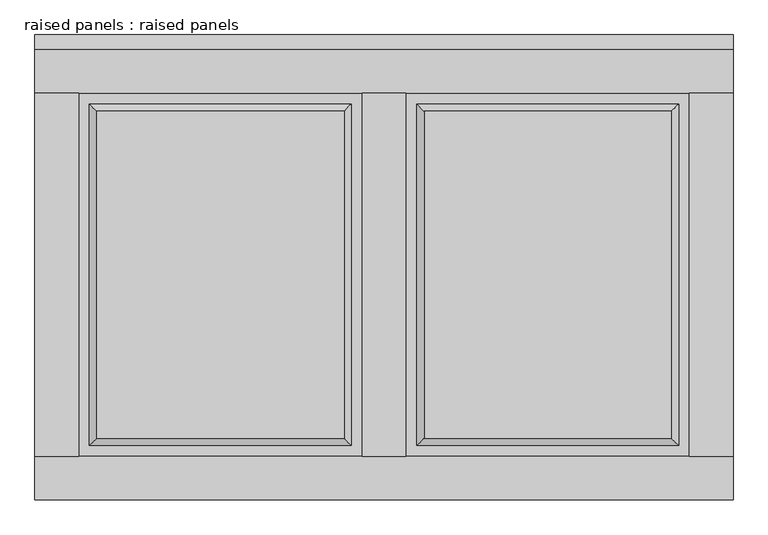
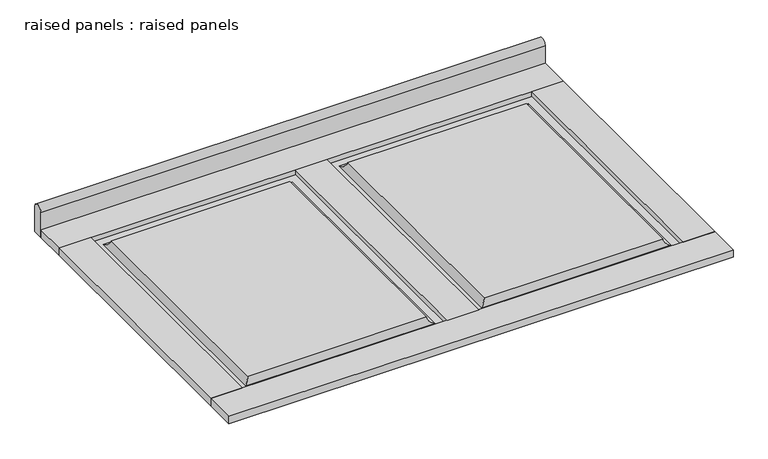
"""IFC4 building model written with IfcOpenShell, lengths in millimetres: furniture geometry, raised panels : raised panels."""

from ifc_helpers import new_model, si_unit, point, frame, frame_2d, origin, origin_with_axes, place, context, project, spatial, polyline, circle_curve, ellipse_curve, trimmed, segment, composite_curve, outline, extrude, source, transform, mapped, element, save
from ifc_brep_helpers import plane_surface, revolved_surface, advanced_brep


def raised_panels_raised_panels_ac667cab(model_context):
    return source(origin(), model_context, "Body", "SolidModel", [
        advanced_brep(
        [(1111.25, 209.55, 19.05), (1111.25, 781.05, 19.05), (679.45, 781.05, 19.05), (679.45, 209.55, 19.05), (1143.0, 812.8, 0.0), (1143.0, 177.8, 0.0), (647.7, 177.8, 0.0), (647.7, 812.8, 0.0), (647.7, 812.8, 6.35), (1143.0, 812.8, 6.35), (647.7, 177.8, 6.35), (1143.0, 177.8, 6.35), (1123.95, 196.85, 6.35), (1123.95, 793.75, 6.35), (666.75, 793.75, 6.35), (666.75, 196.85, 6.35)],
        [
            (0, 1),
            (1, 2),
            (2, 3),
            (3, 0),
            (4, 5),
            (5, 6),
            (6, 7),
            (7, 4),
            (7, 8),
            (8, 9),
            (9, 4),
            (6, 10),
            (10, 8),
            (5, 11),
            (11, 10),
            (9, 11),
            (12, 13),
            (13, 1, ellipse_curve(frame((1123.95, 793.75, 19.05), z_axis=(-0.7071067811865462, 0.7071067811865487, 0.0), x_axis=(-0.7071067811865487, -0.7071067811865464, 0.0)), 17.9605122, 12.7)),
            (0, 12, ellipse_curve(frame((1123.95, 196.85, 19.05), z_axis=(-0.7071067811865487, -0.7071067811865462, 0.0), x_axis=(0.7071067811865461, -0.7071067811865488, 0.0)), 17.9605122, 12.7)),
            (13, 14),
            (14, 2, ellipse_curve(frame((666.75, 793.75, 19.05), z_axis=(-0.7071067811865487, -0.7071067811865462, 0.0), x_axis=(0.7071067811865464, -0.7071067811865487, 0.0)), 17.9605122, 12.7)),
            (14, 15),
            (15, 3, ellipse_curve(frame((666.75, 196.85, 19.05), z_axis=(0.7071067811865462, -0.7071067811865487, 0.0), x_axis=(0.7071067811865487, 0.7071067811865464, 0.0)), 17.9605122, 12.7)),
            (15, 12),
        ],
        [
            plane_surface(frame((1143.0, 812.8, 19.05), z_axis=(0.0, 0.0, 1.0), x_axis=(-1.0, 0.0, 0.0))),
            plane_surface(frame((1143.0, 812.8, 0.0), z_axis=(0.0, 0.0, -1.0), x_axis=(1.0, 0.0, 0.0))),
            plane_surface(frame((1143.0, 812.8, 19.05), z_axis=(0.0, 1.0, 0.0), x_axis=(0.0, 0.0, -1.0))),
            plane_surface(frame((647.7, 812.8, 19.05), z_axis=(-1.0, 0.0, 0.0), x_axis=(0.0, 0.0, -1.0))),
            plane_surface(frame((647.7, 177.8, 19.05), z_axis=(0.0, -1.0, 0.0), x_axis=(0.0, 0.0, -1.0))),
            plane_surface(frame((1143.0, 177.8, 19.05), z_axis=(1.0, 0.0, 0.0), x_axis=(0.0, 0.0, -1.0))),
            revolved_surface(polyline([(1111.25, 184.15000002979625, 19.05), (1111.25, 806.4499999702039, 19.05)]), (1123.95, 177.8, 19.05), (0.0, -1.0, 0.0)),
            revolved_surface(polyline([(1136.6499999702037, 781.05, 19.05), (654.0500000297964, 781.05, 19.05)]), (1143.0, 793.75, 19.05), (1.0, 0.0, 0.0)),
            revolved_surface(polyline([(679.45, 806.4499999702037, 19.05), (679.45, 184.15000002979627, 19.05)]), (666.75, 812.8, 19.05), (0.0, 1.0, 0.0)),
            revolved_surface(polyline([(654.0500000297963, 209.54999999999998, 19.05), (1136.6499999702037, 209.54999999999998, 19.05)]), (647.7, 196.85, 19.05), (-1.0, 0.0, 0.0)),
            plane_surface(frame((666.75, 196.85, 6.35), z_axis=(0.0, 0.0, 1.0), x_axis=(1.0, 0.0, 0.0))),
        ],
        [
            (0, [[1, 2, 3, 4]]),
            (1, [[5, 6, 7, 8]]),
            (2, [[-8, 9, 10, 11]]),
            (3, [[-7, 12, 13, -9]]),
            (4, [[-6, 14, 15, -12]]),
            (5, [[-5, -11, 16, -14]]),
            (6, [[17, 18, -1, 19]]),
            (7, [[-18, 20, 21, -2]]),
            (8, [[-21, 22, 23, -3]]),
            (9, [[-19, -4, -23, 24]]),
            (10, [[-10, -13, -15, -16], [-17, -24, -22, -20]]),
        ],
    ),
        advanced_brep(
        [(539.75, 209.55, 19.05), (539.75, 781.05, 19.05), (107.95, 781.05, 19.05), (107.95, 209.55, 19.05), (571.5, 812.8, 0.0), (571.5, 177.8, 0.0), (76.2, 177.8, 0.0), (76.2, 812.8, 0.0), (76.2, 812.8, 6.35), (571.5, 812.8, 6.35), (76.2, 177.8, 6.35), (571.5, 177.8, 6.35), (552.45, 196.85, 6.35), (552.45, 793.75, 6.35), (95.25, 793.75, 6.35), (95.25, 196.85, 6.35)],
        [
            (0, 1),
            (1, 2),
            (2, 3),
            (3, 0),
            (4, 5),
            (5, 6),
            (6, 7),
            (7, 4),
            (7, 8),
            (8, 9),
            (9, 4),
            (6, 10),
            (10, 8),
            (5, 11),
            (11, 10),
            (9, 11),
            (12, 13),
            (13, 1, ellipse_curve(frame((552.45, 793.75, 19.05), z_axis=(-0.7071067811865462, 0.7071067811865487, 0.0), x_axis=(-0.7071067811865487, -0.7071067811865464, 0.0)), 17.9605122, 12.7)),
            (0, 12, ellipse_curve(frame((552.45, 196.85, 19.05), z_axis=(-0.7071067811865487, -0.7071067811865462, 0.0), x_axis=(0.7071067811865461, -0.7071067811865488, 0.0)), 17.9605122, 12.7)),
            (13, 14),
            (14, 2, ellipse_curve(frame((95.25, 793.75, 19.05), z_axis=(-0.7071067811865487, -0.7071067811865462, 0.0), x_axis=(0.7071067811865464, -0.7071067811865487, 0.0)), 17.9605122, 12.7)),
            (14, 15),
            (15, 3, ellipse_curve(frame((95.25, 196.85, 19.05), z_axis=(0.7071067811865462, -0.7071067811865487, 0.0), x_axis=(0.7071067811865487, 0.7071067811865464, 0.0)), 17.9605122, 12.7)),
            (15, 12),
        ],
        [
            plane_surface(frame((571.5, 812.8, 19.05), z_axis=(0.0, 0.0, 1.0), x_axis=(-1.0, 0.0, 0.0))),
            plane_surface(frame((571.5, 812.8, 0.0), z_axis=(0.0, 0.0, -1.0), x_axis=(1.0, 0.0, 0.0))),
            plane_surface(frame((571.5, 812.8, 19.05), z_axis=(0.0, 1.0, 0.0), x_axis=(0.0, 0.0, -1.0))),
            plane_surface(frame((76.2, 812.8, 19.05), z_axis=(-1.0, 0.0, 0.0), x_axis=(0.0, 0.0, -1.0))),
            plane_surface(frame((76.2, 177.8, 19.05), z_axis=(0.0, -1.0, 0.0), x_axis=(0.0, 0.0, -1.0))),
            plane_surface(frame((571.5, 177.8, 19.05), z_axis=(1.0, 0.0, 0.0), x_axis=(0.0, 0.0, -1.0))),
            revolved_surface(polyline([(539.75, 184.15000002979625, 19.05), (539.75, 806.4499999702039, 19.05)]), (552.45, 177.8, 19.05), (0.0, -1.0, 0.0)),
            revolved_surface(polyline([(565.1499999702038, 781.05, 19.05), (82.55000002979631, 781.05, 19.05)]), (571.5, 793.75, 19.05), (1.0, 0.0, 0.0)),
            revolved_surface(polyline([(107.95, 806.4499999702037, 19.05), (107.95, 184.15000002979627, 19.05)]), (95.25, 812.8, 19.05), (0.0, 1.0, 0.0)),
            revolved_surface(polyline([(82.55000002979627, 209.54999999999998, 19.05), (565.1499999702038, 209.54999999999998, 19.05)]), (76.2, 196.85, 19.05), (-1.0, 0.0, 0.0)),
            plane_surface(frame((95.25, 196.85, 6.35), z_axis=(0.0, 0.0, 1.0), x_axis=(1.0, 0.0, 0.0))),
        ],
        [
            (0, [[1, 2, 3, 4]]),
            (1, [[5, 6, 7, 8]]),
            (2, [[-8, 9, 10, 11]]),
            (3, [[-7, 12, 13, -9]]),
            (4, [[-6, 14, 15, -12]]),
            (5, [[-5, -11, 16, -14]]),
            (6, [[17, 18, -1, 19]]),
            (7, [[-18, 20, 21, -2]]),
            (8, [[-21, 22, 23, -3]]),
            (9, [[-19, -4, -23, 24]]),
            (10, [[-10, -13, -15, -16], [-17, -24, -22, -20]]),
        ],
    ),
        extrude(outline(polyline([(647.7, 177.8), (571.5, 177.8), (571.5, 812.8), (647.7, 812.8), (647.7, 177.8)])), origin_with_axes(), (0.0, 0.0, 1.0), 19.05),
        extrude(outline(polyline([(1219.2, 177.8), (1143.0, 177.8), (1143.0, 812.8), (1219.2, 812.8), (1219.2, 177.8)])), origin_with_axes(), (0.0, 0.0, 1.0), 19.05),
        extrude(outline(polyline([(76.2, 177.8), (0.0, 177.8), (0.0, 812.8), (76.2, 812.8), (76.2, 177.8)])), origin_with_axes(), (0.0, 0.0, 1.0), 19.05),
        extrude(outline(polyline([(1219.2, 177.8), (1219.2, 101.6), (0.0, 101.6), (0.0, 177.8), (1219.2, 177.8)])), origin_with_axes(), (0.0, 0.0, 1.0), 19.05),
        extrude(outline(polyline([(1219.2, 889.0), (1219.2, 812.8), (0.0, 812.8), (0.0, 889.0), (1219.2, 889.0)])), origin_with_axes(), (0.0, 0.0, 1.0), 19.05),
        extrude(outline(composite_curve([segment(polyline([(914.4, 63.5), (914.4, 0.0), (889.0, 0.0), (889.0, 63.5)]), True, "CONTINUOUS"), segment(trimmed(circle_curve(frame_2d((901.7, 63.5)), 12.7), [point((889.0, 63.5))], [point((914.4, 63.5))], False, "CARTESIAN"), True, "CONTINUOUS")], self_intersect=False)), frame((0.0, 0.0, 0.0), z_axis=(1.0, 0.0, 0.0), x_axis=(0.0, 1.0, 0.0)), (0.0, 0.0, 1.0), 1219.2),
    ])


if __name__ == "__main__":
    model = new_model("IFC4")
    model_context = context("Model", 3, world=origin())
    ifc_project = project(units=[si_unit("LENGTHUNIT", "METRE", prefix="MILLI")], contexts=[model_context])
    site = spatial("IfcSite", under=ifc_project)
    building = spatial("IfcBuilding", under=site)
    placement = place(None, origin())
    raised_panels_raised_panels_shape = raised_panels_raised_panels_ac667cab(model_context)
    element("IfcFurniture", 1, ObjectType="raised panels : raised panels", at=placement, inside=building, context=model_context, shape_type="MappedRepresentation", body=[
        mapped(raised_panels_raised_panels_shape, transform((0.0, 0.0, 0.0), x_axis=(1.0, 0.0, 0.0), y_axis=(0.0, 1.0, 0.0), z_axis=(0.0, 0.0, 1.0))),
    ])
    save(model, "model.ifc")
